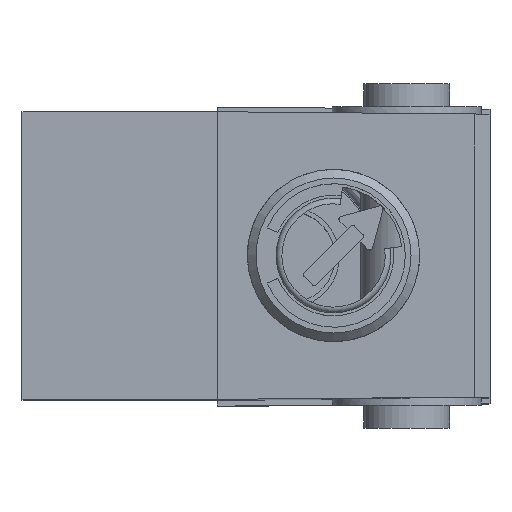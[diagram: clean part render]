
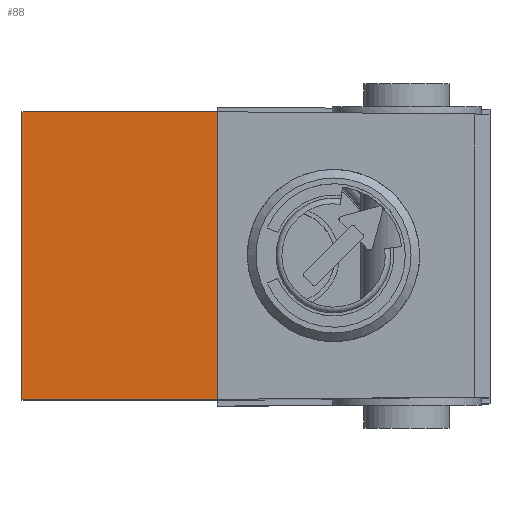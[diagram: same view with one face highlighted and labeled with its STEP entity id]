
A CAD part, top view. The second image highlights one B-rep face of the part: STEP entity #88.
In plain terms, the highlighted planar face has unit normal (0, 0, 1).
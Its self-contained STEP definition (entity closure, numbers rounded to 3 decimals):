
#88 = ADVANCED_FACE( '', ( #228 ), #229, .F. );
#228 = FACE_OUTER_BOUND( '', #704, .T. );
#229 = PLANE( '', #705 );
#704 = EDGE_LOOP( '', ( #1068, #1069, #1070, #1071 ) );
#705 = AXIS2_PLACEMENT_3D( '', #1072, #1073, #1074 );
#1068 = ORIENTED_EDGE( '', *, *, #2003, .F. );
#1069 = ORIENTED_EDGE( '', *, *, #1977, .F. );
#1070 = ORIENTED_EDGE( '', *, *, #1947, .T. );
#1071 = ORIENTED_EDGE( '', *, *, #2001, .T. );
#1072 = CARTESIAN_POINT( '', ( -6.6, 5., 24.1 ) );
#1073 = DIRECTION( '', ( 0., 0., -1. ) );
#1074 = DIRECTION( '', ( 0., 1., 0. ) );
#1947 = EDGE_CURVE( '', #2265, #2266, #2267, .T. );
#1977 = EDGE_CURVE( '', #2265, #2294, #2321, .T. );
#2001 = EDGE_CURVE( '', #2266, #2365, #2366, .T. );
#2003 = EDGE_CURVE( '', #2294, #2365, #2368, .T. );
#2265 = VERTEX_POINT( '', #2790 );
#2266 = VERTEX_POINT( '', #2791 );
#2267 = LINE( '', #2792, #2793 );
#2294 = VERTEX_POINT( '', #2830 );
#2321 = LINE( '', #2936, #2937 );
#2365 = VERTEX_POINT( '', #2996 );
#2366 = LINE( '', #2997, #2998 );
#2368 = LINE( '', #3001, #3002 );
#2790 = CARTESIAN_POINT( '', ( -6.6, 5., 24.1 ) );
#2791 = CARTESIAN_POINT( '', ( -13.4, 5., 24.1 ) );
#2792 = CARTESIAN_POINT( '', ( -6.6, 5., 24.1 ) );
#2793 = VECTOR( '', #3674, 1000. );
#2830 = CARTESIAN_POINT( '', ( -6.6, -5., 24.1 ) );
#2936 = CARTESIAN_POINT( '', ( -6.6, 5., 24.1 ) );
#2937 = VECTOR( '', #3712, 1000. );
#2996 = CARTESIAN_POINT( '', ( -13.4, -5., 24.1 ) );
#2997 = CARTESIAN_POINT( '', ( -13.4, 5., 24.1 ) );
#2998 = VECTOR( '', #3752, 1000. );
#3001 = CARTESIAN_POINT( '', ( -6.6, -5., 24.1 ) );
#3002 = VECTOR( '', #3754, 1000. );
#3674 = DIRECTION( '', ( -1., 0., 0. ) );
#3712 = DIRECTION( '', ( 0., -1., 0. ) );
#3752 = DIRECTION( '', ( 0., -1., 0. ) );
#3754 = DIRECTION( '', ( -1., 0., 0. ) );
